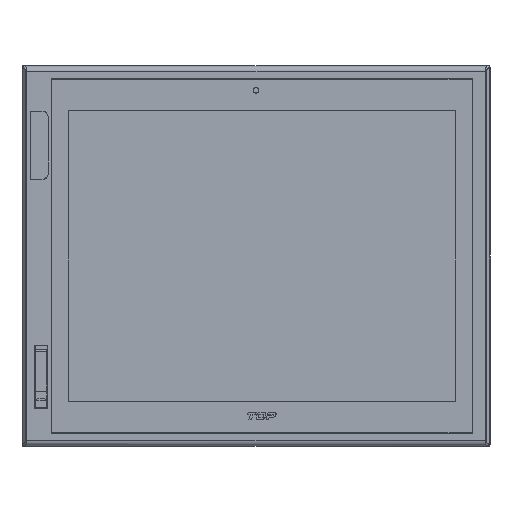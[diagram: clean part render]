
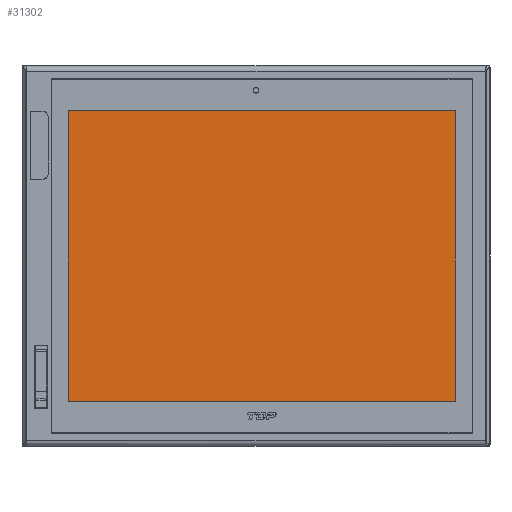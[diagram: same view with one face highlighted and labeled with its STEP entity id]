
A CAD part, top view. The second image highlights one B-rep face of the part: STEP entity #31302.
In plain terms, the highlighted free-form (B-spline) face has degree [1, 1] with [2, 2] control points.
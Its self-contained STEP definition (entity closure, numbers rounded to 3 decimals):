
#6445=DIRECTION('',(-1.,0.,0.));
#6446=VECTOR('',#6445,306.);
#6447=CARTESIAN_POINT('',(157.5,115.,3.7));
#6448=LINE('',#6447,#6446);
#6452=DIRECTION('',(0.,1.,0.));
#6453=VECTOR('',#6452,230.);
#6454=CARTESIAN_POINT('',(157.5,-115.,3.7));
#6455=LINE('',#6454,#6453);
#6459=DIRECTION('',(1.,0.,0.));
#6460=VECTOR('',#6459,306.);
#6461=CARTESIAN_POINT('',(-148.5,-115.,3.7));
#6462=LINE('',#6461,#6460);
#6466=DIRECTION('',(0.,-1.,0.));
#6467=VECTOR('',#6466,230.);
#6468=CARTESIAN_POINT('',(-148.5,115.,3.7));
#6469=LINE('',#6468,#6467);
#21024=CARTESIAN_POINT('',(157.5,115.,3.7));
#21025=CARTESIAN_POINT('',(-148.5,115.,3.7));
#21026=VERTEX_POINT('',#21024);
#21027=VERTEX_POINT('',#21025);
#21028=CARTESIAN_POINT('',(-148.5,-115.,3.7));
#21029=VERTEX_POINT('',#21028);
#21030=CARTESIAN_POINT('',(157.5,-115.,3.7));
#21031=VERTEX_POINT('',#21030);
#31291=CARTESIAN_POINT('',(-154.62,-119.965,3.7));
#31292=CARTESIAN_POINT('',(-154.62,138.215,3.7));
#31293=CARTESIAN_POINT('',(163.62,-119.965,3.7));
#31294=CARTESIAN_POINT('',(163.62,138.215,3.7));
#31295=B_SPLINE_SURFACE_WITH_KNOTS('',1,1,((#31291,#31292),(#31293,#31294)),
.UNSPECIFIED.,.F.,.F.,.F.,(2,2),(2,2),(-154.62,163.62),(-119.965,
138.215),.UNSPECIFIED.);
#31296=ORIENTED_EDGE('',*,*,#31231,.F.);
#31297=ORIENTED_EDGE('',*,*,#31246,.F.);
#31298=ORIENTED_EDGE('',*,*,#31260,.F.);
#31299=ORIENTED_EDGE('',*,*,#31273,.F.);
#31300=EDGE_LOOP('',(#31296,#31297,#31298,#31299));
#31301=FACE_OUTER_BOUND('',#31300,.F.);
#31302=ADVANCED_FACE('',(#31301),#31295,.T.);
#31231=EDGE_CURVE('',#21026,#21027,#6448,.T.);
#31246=EDGE_CURVE('',#21031,#21026,#6455,.T.);
#31260=EDGE_CURVE('',#21029,#21031,#6462,.T.);
#31273=EDGE_CURVE('',#21027,#21029,#6469,.T.);
